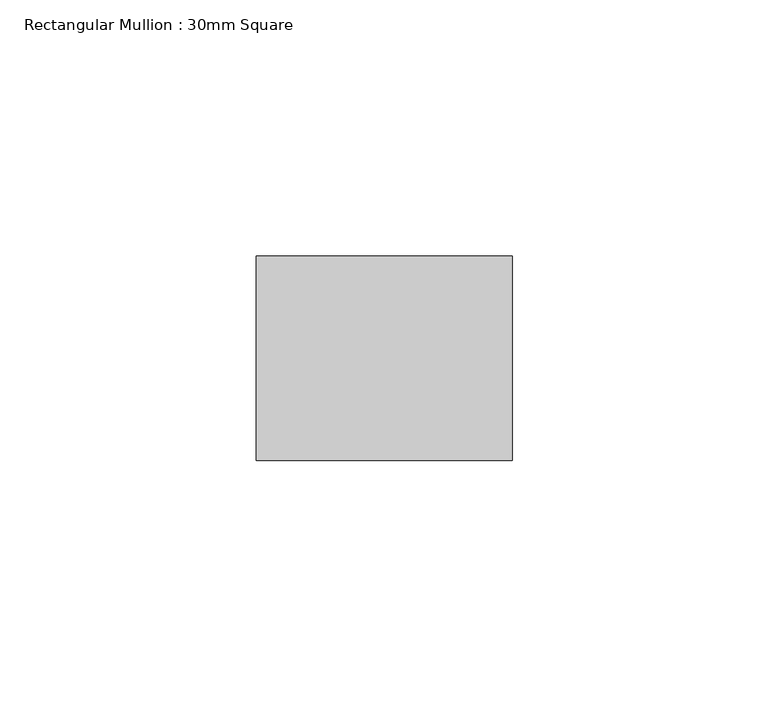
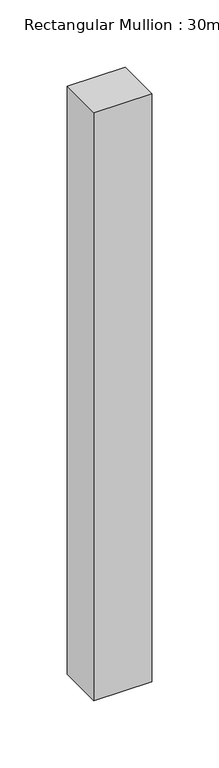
"""IFC4 building model written with IfcOpenShell, lengths in millimetres: member geometry, Rectangular Mullion : 30mm Square."""

from ifc_helpers import new_model, si_unit, frame, origin, place, context, project, spatial, polyline, outline, extrude, source, transform, mapped, element, save


def rectangular_mullion_30mm_square_adbf443b(model_context):
    return source(origin(), model_context, "Body", "SweptSolid", [
        extrude(outline(polyline([(0.0, 20.0), (0.0, -20.0), (-50.0, -20.0), (-50.0, 20.0), (0.0, 20.0)])), frame((0.0, 0.0, -535.7359313), z_axis=(0.0, 0.0, 1.0), x_axis=(1.0, 0.0, 0.0)), (0.0, 0.0, 1.0), 535.7359313),
    ])


if __name__ == "__main__":
    model = new_model("IFC4")
    model_context = context("Model", 3, world=origin())
    ifc_project = project(units=[si_unit("LENGTHUNIT", "METRE", prefix="MILLI")], contexts=[model_context])
    site = spatial("IfcSite", under=ifc_project)
    building = spatial("IfcBuilding", under=site)
    placement = place(None, origin())
    rectangular_mullion_30mm_square_shape = rectangular_mullion_30mm_square_adbf443b(model_context)
    element("IfcMember", 1, ObjectType="Rectangular Mullion : 30mm Square", at=placement, inside=building, context=model_context, shape_type="MappedRepresentation", body=[
        mapped(rectangular_mullion_30mm_square_shape, transform((0.0, 0.0, 0.0), x_axis=(1.0, 0.0, 0.0), y_axis=(0.0, 1.0, 0.0), z_axis=(0.0, 0.0, 1.0))),
    ])
    save(model, "model.ifc")
